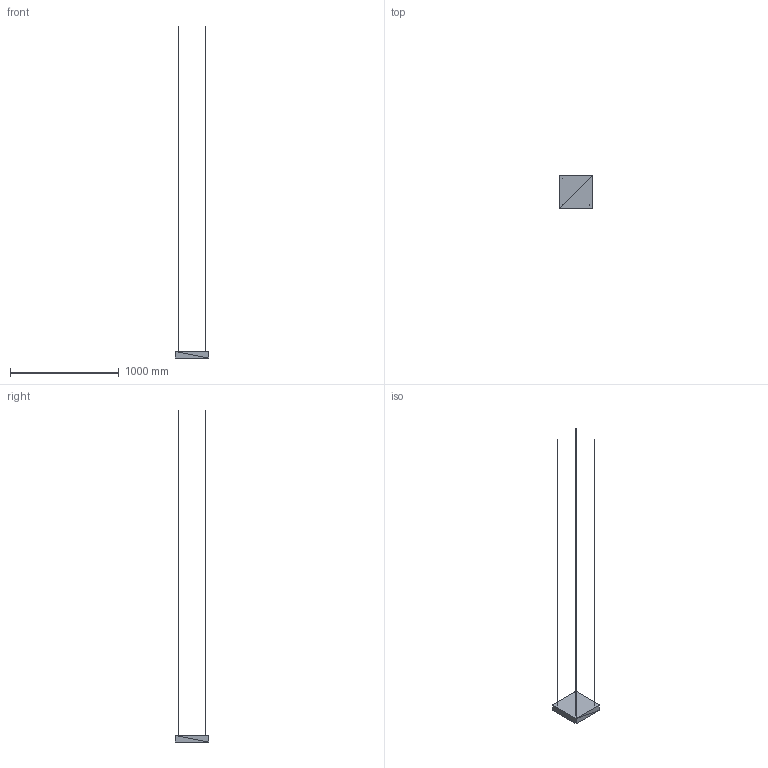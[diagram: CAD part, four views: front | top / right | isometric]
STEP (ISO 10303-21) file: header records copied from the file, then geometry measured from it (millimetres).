
FILE_DESCRIPTION(('ISINAC STEP AP214'),'2;1');
FILE_NAME('ISINAC_C.305_60mm_COLGADO','2026-05-03T10:49:19',('ISINAC'),('www.isinac.com'),'ISINAC BIM Generator 1.0','','');
FILE_SCHEMA(('AUTOMOTIVE_DESIGN'));
Length unit declared in the file: millimetre
Products named in the file (1): ISINAC_C.305_60mm_COLGADO
Bounding box: 305 x 305 x 3060 mm (x, y, z)
Surface area: 367296 mm2 (no closed solid volume)
Topology: 0 solids, 92 shells, 92 faces, 276 edges, 276 vertices
Faces by surface type: plane 92
Entity records: 1025 total; most frequent: CARTESIAN_POINT 368, DIRECTION 184, POLY_LOOP 92, FACE_OUTER_BOUND 92, AXIS2_PLACEMENT_3D 92, PLANE 92, FACE_SURFACE 92, CLOSED_SHELL 1
